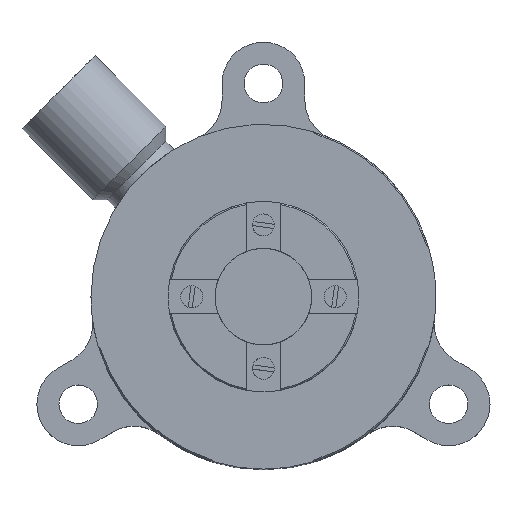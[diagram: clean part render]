
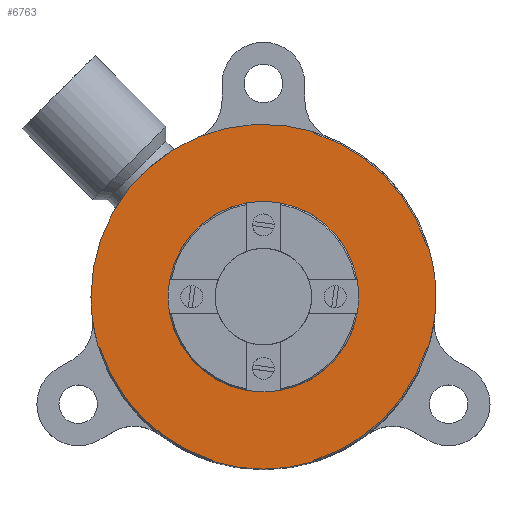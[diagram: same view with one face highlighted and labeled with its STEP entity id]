
A CAD part, top view. The second image highlights one B-rep face of the part: STEP entity #6763.
In plain terms, the highlighted planar face has unit normal (0, 0, 1).
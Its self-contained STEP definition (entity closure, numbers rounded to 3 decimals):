
#5 = CARTESIAN_POINT ( 'NONE',  ( 11.976, -3.58, 30.5 ) ) ;
#20 = AXIS2_PLACEMENT_3D ( 'NONE', #4219, #2401, #7265 ) ;
#29 = VERTEX_POINT ( 'NONE', #7524 ) ;
#129 = CARTESIAN_POINT ( 'NONE',  ( 0., 0., 30.5 ) ) ;
#319 = DIRECTION ( 'NONE',  ( 0., 0., 1. ) ) ;
#348 = ORIENTED_EDGE ( 'NONE', *, *, #2914, .T. ) ;
#507 = ORIENTED_EDGE ( 'NONE', *, *, #7227, .T. ) ;
#528 = ORIENTED_EDGE ( 'NONE', *, *, #1529, .T. ) ;
#552 = VERTEX_POINT ( 'NONE', #6351 ) ;
#580 = AXIS2_PLACEMENT_3D ( 'NONE', #2338, #1150, #6660 ) ;
#815 = CARTESIAN_POINT ( 'NONE',  ( 0., 0., 30.5 ) ) ;
#816 = VERTEX_POINT ( 'NONE', #5763 ) ;
#825 = DIRECTION ( 'NONE',  ( 1., 0., 0. ) ) ;
#828 = LINE ( 'NONE', #7246, #2085 ) ;
#946 = CIRCLE ( 'NONE', #7380, 12.4 ) ;
#983 = CARTESIAN_POINT ( 'NONE',  ( 0., 0., 30.5 ) ) ;
#1078 = EDGE_CURVE ( 'NONE', #5282, #2079, #5388, .T. ) ;
#1150 = DIRECTION ( 'NONE',  ( 0., 0., 1. ) ) ;
#1224 = LINE ( 'NONE', #1562, #5972 ) ;
#1260 = VERTEX_POINT ( 'NONE', #2500 ) ;
#1292 = ORIENTED_EDGE ( 'NONE', *, *, #4717, .T. ) ;
#1412 = VERTEX_POINT ( 'NONE', #7293 ) ;
#1428 = CIRCLE ( 'NONE', #7712, 12.5 ) ;
#1460 = DIRECTION ( 'NONE',  ( 0., 0., 1. ) ) ;
#1529 = EDGE_CURVE ( 'NONE', #4887, #6636, #4035, .T. ) ;
#1562 = CARTESIAN_POINT ( 'NONE',  ( 3.58, -11.976, 30.5 ) ) ;
#1635 = EDGE_CURVE ( 'NONE', #1671, #4231, #2375, .T. ) ;
#1645 = CIRCLE ( 'NONE', #5260, 12.5 ) ;
#1671 = VERTEX_POINT ( 'NONE', #1999 ) ;
#1704 = EDGE_CURVE ( 'NONE', #29, #5934, #5764, .T. ) ;
#1737 = DIRECTION ( 'NONE',  ( 0.707, -0.707, 0. ) ) ;
#1763 = EDGE_LOOP ( 'NONE', ( #2307, #5559 ) ) ;
#1773 = DIRECTION ( 'NONE',  ( 0., 0., 1. ) ) ;
#1804 = CARTESIAN_POINT ( 'NONE',  ( 0., 0., 30.5 ) ) ;
#1805 = VERTEX_POINT ( 'NONE', #4621 ) ;
#1883 = ORIENTED_EDGE ( 'NONE', *, *, #3017, .T. ) ;
#1898 = EDGE_CURVE ( 'NONE', #3694, #7765, #5271, .T. ) ;
#1953 = VECTOR ( 'NONE', #6434, 1000. ) ;
#1999 = CARTESIAN_POINT ( 'NONE',  ( 12.5, 0., 30.5 ) ) ;
#2072 = AXIS2_PLACEMENT_3D ( 'NONE', #1804, #4934, #3714 ) ;
#2079 = VERTEX_POINT ( 'NONE', #5 ) ;
#2085 = VECTOR ( 'NONE', #2370, 1000. ) ;
#2204 = CARTESIAN_POINT ( 'NONE',  ( 0., 0., 30.5 ) ) ;
#2278 = CIRCLE ( 'NONE', #7501, 12.4 ) ;
#2287 = DIRECTION ( 'NONE',  ( 1., 0., 0. ) ) ;
#2307 = ORIENTED_EDGE ( 'NONE', *, *, #5417, .F. ) ;
#2338 = CARTESIAN_POINT ( 'NONE',  ( 0., 0., 30.5 ) ) ;
#2370 = DIRECTION ( 'NONE',  ( 0.707, -0.707, 0. ) ) ;
#2375 = CIRCLE ( 'NONE', #6437, 12.5 ) ;
#2401 = DIRECTION ( 'NONE',  ( 0., 0., 1. ) ) ;
#2500 = CARTESIAN_POINT ( 'NONE',  ( 3.731, -11.825, 30.5 ) ) ;
#2522 = ORIENTED_EDGE ( 'NONE', *, *, #6734, .T. ) ;
#2578 = VECTOR ( 'NONE', #3596, 1000. ) ;
#2650 = CARTESIAN_POINT ( 'NONE',  ( 8.768, 8.768, 30.5 ) ) ;
#2878 = ORIENTED_EDGE ( 'NONE', *, *, #3364, .T. ) ;
#2914 = EDGE_CURVE ( 'NONE', #1805, #6476, #5424, .T. ) ;
#2935 = CARTESIAN_POINT ( 'NONE',  ( 0., 0., 30.5 ) ) ;
#3017 = EDGE_CURVE ( 'NONE', #1260, #5282, #5133, .T. ) ;
#3020 = CARTESIAN_POINT ( 'NONE',  ( 3.58, -11.976, 30.5 ) ) ;
#3092 = AXIS2_PLACEMENT_3D ( 'NONE', #2204, #319, #5927 ) ;
#3258 = CARTESIAN_POINT ( 'NONE',  ( 11.976, 3.58, 30.5 ) ) ;
#3282 = DIRECTION ( 'NONE',  ( 1., 0., 0. ) ) ;
#3315 = CARTESIAN_POINT ( 'NONE',  ( 0., 0., 30.5 ) ) ;
#3364 = EDGE_CURVE ( 'NONE', #5934, #4887, #1645, .T. ) ;
#3499 = PLANE ( 'NONE',  #5588 ) ;
#3524 = EDGE_LOOP ( 'NONE', ( #507, #348, #1292, #7128, #2878, #528, #4955, #3743, #4780, #7961, #5274, #1883, #6486, #2522, #5431 ) ) ;
#3584 = CARTESIAN_POINT ( 'NONE',  ( -3.58, -11.976, 30.5 ) ) ;
#3596 = DIRECTION ( 'NONE',  ( 0.707, 0.707, 0. ) ) ;
#3663 = CARTESIAN_POINT ( 'NONE',  ( 0., 0., 30.5 ) ) ;
#3694 = VERTEX_POINT ( 'NONE', #4345 ) ;
#3714 = DIRECTION ( 'NONE',  ( 1., 0., 0. ) ) ;
#3743 = ORIENTED_EDGE ( 'NONE', *, *, #6572, .T. ) ;
#4035 = CIRCLE ( 'NONE', #2072, 12.5 ) ;
#4083 = DIRECTION ( 'NONE',  ( 0., 0., 1. ) ) ;
#4111 = CARTESIAN_POINT ( 'NONE',  ( -12.5, 0., 30.5 ) ) ;
#4157 = DIRECTION ( 'NONE',  ( 1., 0., 0. ) ) ;
#4219 = CARTESIAN_POINT ( 'NONE',  ( 0., 0., 30.5 ) ) ;
#4231 = VERTEX_POINT ( 'NONE', #6209 ) ;
#4316 = AXIS2_PLACEMENT_3D ( 'NONE', #3663, #6137, #7994 ) ;
#4345 = CARTESIAN_POINT ( 'NONE',  ( 6.9, 0., 30.5 ) ) ;
#4396 = VECTOR ( 'NONE', #1737, 1000. ) ;
#4453 = CARTESIAN_POINT ( 'NONE',  ( 0., 0., 30.5 ) ) ;
#4621 = CARTESIAN_POINT ( 'NONE',  ( 11.825, 3.731, 30.5 ) ) ;
#4717 = EDGE_CURVE ( 'NONE', #6476, #29, #946, .T. ) ;
#4769 = DIRECTION ( 'NONE',  ( -0.707, -0.707, 0. ) ) ;
#4780 = ORIENTED_EDGE ( 'NONE', *, *, #5395, .T. ) ;
#4800 = CIRCLE ( 'NONE', #20, 6.9 ) ;
#4810 = EDGE_CURVE ( 'NONE', #552, #1412, #1428, .T. ) ;
#4887 = VERTEX_POINT ( 'NONE', #4111 ) ;
#4934 = DIRECTION ( 'NONE',  ( 0., 0., 1. ) ) ;
#4953 = EDGE_CURVE ( 'NONE', #1412, #1260, #1224, .T. ) ;
#4955 = ORIENTED_EDGE ( 'NONE', *, *, #6853, .T. ) ;
#4978 = FACE_BOUND ( 'NONE', #1763, .T. ) ;
#5033 = CARTESIAN_POINT ( 'NONE',  ( -6.9, 0., 30.5 ) ) ;
#5114 = CARTESIAN_POINT ( 'NONE',  ( 11.976, 3.58, 30.5 ) ) ;
#5130 = DIRECTION ( 'NONE',  ( -0.707, 0.707, 0. ) ) ;
#5133 = CIRCLE ( 'NONE', #4316, 12.4 ) ;
#5152 = VERTEX_POINT ( 'NONE', #6749 ) ;
#5207 = AXIS2_PLACEMENT_3D ( 'NONE', #6554, #4083, #2287 ) ;
#5260 = AXIS2_PLACEMENT_3D ( 'NONE', #983, #7859, #4157 ) ;
#5271 = CIRCLE ( 'NONE', #5207, 6.9 ) ;
#5274 = ORIENTED_EDGE ( 'NONE', *, *, #4953, .T. ) ;
#5282 = VERTEX_POINT ( 'NONE', #7120 ) ;
#5388 = LINE ( 'NONE', #3020, #2578 ) ;
#5395 = EDGE_CURVE ( 'NONE', #816, #552, #828, .T. ) ;
#5417 = EDGE_CURVE ( 'NONE', #7765, #3694, #4800, .T. ) ;
#5424 = CIRCLE ( 'NONE', #580, 12.4 ) ;
#5431 = ORIENTED_EDGE ( 'NONE', *, *, #1635, .T. ) ;
#5559 = ORIENTED_EDGE ( 'NONE', *, *, #1898, .F. ) ;
#5588 = AXIS2_PLACEMENT_3D ( 'NONE', #2935, #5956, #4769 ) ;
#5763 = CARTESIAN_POINT ( 'NONE',  ( -3.731, -11.825, 30.5 ) ) ;
#5764 = LINE ( 'NONE', #3258, #7021 ) ;
#5927 = DIRECTION ( 'NONE',  ( 1., 0., 0. ) ) ;
#5934 = VERTEX_POINT ( 'NONE', #5962 ) ;
#5956 = DIRECTION ( 'NONE',  ( 0., 0., 1. ) ) ;
#5962 = CARTESIAN_POINT ( 'NONE',  ( 3.58, 11.976, 30.5 ) ) ;
#5972 = VECTOR ( 'NONE', #6503, 1000. ) ;
#6137 = DIRECTION ( 'NONE',  ( 0., 0., 1. ) ) ;
#6209 = CARTESIAN_POINT ( 'NONE',  ( 11.976, 3.58, 30.5 ) ) ;
#6223 = LINE ( 'NONE', #5114, #1953 ) ;
#6351 = CARTESIAN_POINT ( 'NONE',  ( -3.58, -11.976, 30.5 ) ) ;
#6390 = DIRECTION ( 'NONE',  ( -0.707, -0.707, 0. ) ) ;
#6434 = DIRECTION ( 'NONE',  ( -0.707, 0.707, 0. ) ) ;
#6437 = AXIS2_PLACEMENT_3D ( 'NONE', #4453, #6993, #3282 ) ;
#6476 = VERTEX_POINT ( 'NONE', #2650 ) ;
#6486 = ORIENTED_EDGE ( 'NONE', *, *, #1078, .T. ) ;
#6503 = DIRECTION ( 'NONE',  ( 0.707, 0.707, 0. ) ) ;
#6554 = CARTESIAN_POINT ( 'NONE',  ( 0., 0., 30.5 ) ) ;
#6572 = EDGE_CURVE ( 'NONE', #5152, #816, #2278, .T. ) ;
#6636 = VERTEX_POINT ( 'NONE', #6989 ) ;
#6660 = DIRECTION ( 'NONE',  ( -0.707, -0.707, 0. ) ) ;
#6696 = DIRECTION ( 'NONE',  ( -0.707, -0.707, 0. ) ) ;
#6732 = FACE_OUTER_BOUND ( 'NONE', #3524, .T. ) ;
#6734 = EDGE_CURVE ( 'NONE', #2079, #1671, #7903, .T. ) ;
#6749 = CARTESIAN_POINT ( 'NONE',  ( -11.825, -3.731, 30.5 ) ) ;
#6763 = ADVANCED_FACE ( 'NONE', ( #6732, #4978 ), #3499, .T. ) ;
#6853 = EDGE_CURVE ( 'NONE', #6636, #5152, #7121, .T. ) ;
#6989 = CARTESIAN_POINT ( 'NONE',  ( -11.976, -3.58, 30.5 ) ) ;
#6993 = DIRECTION ( 'NONE',  ( 0., 0., 1. ) ) ;
#7021 = VECTOR ( 'NONE', #5130, 1000. ) ;
#7120 = CARTESIAN_POINT ( 'NONE',  ( 11.825, -3.731, 30.5 ) ) ;
#7121 = LINE ( 'NONE', #3584, #4396 ) ;
#7128 = ORIENTED_EDGE ( 'NONE', *, *, #1704, .T. ) ;
#7227 = EDGE_CURVE ( 'NONE', #4231, #1805, #6223, .T. ) ;
#7246 = CARTESIAN_POINT ( 'NONE',  ( -3.58, -11.976, 30.5 ) ) ;
#7265 = DIRECTION ( 'NONE',  ( 1., 0., 0. ) ) ;
#7293 = CARTESIAN_POINT ( 'NONE',  ( 3.58, -11.976, 30.5 ) ) ;
#7380 = AXIS2_PLACEMENT_3D ( 'NONE', #129, #1773, #6696 ) ;
#7501 = AXIS2_PLACEMENT_3D ( 'NONE', #815, #7530, #6390 ) ;
#7524 = CARTESIAN_POINT ( 'NONE',  ( 3.731, 11.825, 30.5 ) ) ;
#7530 = DIRECTION ( 'NONE',  ( 0., 0., 1. ) ) ;
#7712 = AXIS2_PLACEMENT_3D ( 'NONE', #3315, #1460, #825 ) ;
#7765 = VERTEX_POINT ( 'NONE', #5033 ) ;
#7859 = DIRECTION ( 'NONE',  ( 0., 0., 1. ) ) ;
#7903 = CIRCLE ( 'NONE', #3092, 12.5 ) ;
#7961 = ORIENTED_EDGE ( 'NONE', *, *, #4810, .T. ) ;
#7994 = DIRECTION ( 'NONE',  ( -0.707, -0.707, 0. ) ) ;
